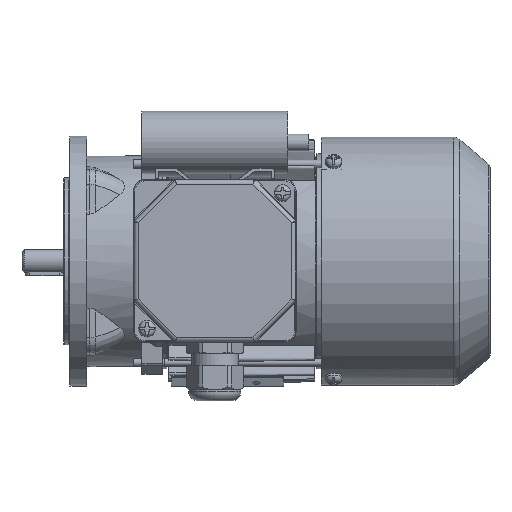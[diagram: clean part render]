
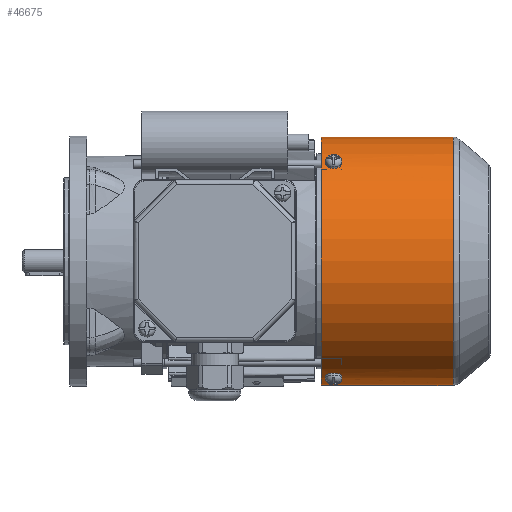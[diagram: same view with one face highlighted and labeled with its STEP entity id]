
A CAD part, top view. The second image highlights one B-rep face of the part: STEP entity #46675.
In plain terms, the highlighted cylindrical face has radius 59.6 mm (diameter 119.2 mm), a full revolution.
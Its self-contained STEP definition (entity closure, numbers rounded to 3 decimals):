
#683=B_SPLINE_CURVE_WITH_KNOTS('',3,(#70611,#70612,#70613,#70614,#70615,
#70616,#70617),.UNSPECIFIED.,.F.,.F.,(4,1,1,1,4),(0.,0.002,
0.004,0.006,0.008),
 .UNSPECIFIED.);
#685=B_SPLINE_CURVE_WITH_KNOTS('',3,(#70635,#70636,#70637,#70638,#70639,
#70640,#70641),.UNSPECIFIED.,.F.,.F.,(4,1,1,1,4),(0.,0.002,
0.004,0.006,0.008),
 .UNSPECIFIED.);
#687=B_SPLINE_CURVE_WITH_KNOTS('',3,(#70663,#70664,#70665,#70666,#70667,
#70668,#70669),.UNSPECIFIED.,.F.,.F.,(4,1,1,1,4),(0.,0.002,
0.004,0.006,0.008),
 .UNSPECIFIED.);
#689=B_SPLINE_CURVE_WITH_KNOTS('',3,(#70687,#70688,#70689,#70690,#70691,
#70692,#70693),.UNSPECIFIED.,.F.,.F.,(4,1,1,1,4),(0.,0.002,
0.004,0.006,0.008),
 .UNSPECIFIED.);
#690=B_SPLINE_CURVE_WITH_KNOTS('',3,(#70698,#70699,#70700,#70701,#70702,
#70703,#70704),.UNSPECIFIED.,.F.,.F.,(4,1,1,1,4),(0.,0.002,
0.004,0.006,0.007),
 .UNSPECIFIED.);
#691=B_SPLINE_CURVE_WITH_KNOTS('',3,(#70707,#70708,#70709,#70710,#70711,
#70712,#70713),.UNSPECIFIED.,.F.,.F.,(4,1,1,1,4),(0.,
0.002,0.004,0.006,0.007),
 .UNSPECIFIED.);
#7368=CYLINDRICAL_SURFACE('',#49747,59.6);
#8085=CIRCLE('',#48484,59.6);
#8692=CIRCLE('',#49731,59.6);
#8694=CIRCLE('',#49736,59.6);
#8695=CIRCLE('',#49738,59.6);
#8697=CIRCLE('',#49742,59.6);
#8699=CIRCLE('',#49746,59.6);
#16193=ORIENTED_EDGE('',*,*,#22500,.T.);
#16194=ORIENTED_EDGE('',*,*,#22497,.T.);
#16195=ORIENTED_EDGE('',*,*,#22505,.T.);
#16196=ORIENTED_EDGE('',*,*,#22503,.T.);
#16197=ORIENTED_EDGE('',*,*,#22519,.F.);
#16198=ORIENTED_EDGE('',*,*,#22520,.F.);
#16199=ORIENTED_EDGE('',*,*,#22513,.T.);
#16200=ORIENTED_EDGE('',*,*,#22510,.T.);
#16201=ORIENTED_EDGE('',*,*,#22518,.T.);
#16202=ORIENTED_EDGE('',*,*,#22516,.T.);
#16203=ORIENTED_EDGE('',*,*,#20734,.F.);
#16204=ORIENTED_EDGE('',*,*,#22506,.T.);
#20734=EDGE_CURVE('',#25046,#25046,#8085,.T.);
#22497=EDGE_CURVE('',#26244,#26247,#683,.T.);
#22500=EDGE_CURVE('',#26248,#26244,#8692,.F.);
#22503=EDGE_CURVE('',#26250,#26248,#685,.T.);
#22505=EDGE_CURVE('',#26247,#26250,#8694,.F.);
#22506=EDGE_CURVE('',#26252,#26252,#8695,.F.);
#22510=EDGE_CURVE('',#26253,#26256,#687,.T.);
#22513=EDGE_CURVE('',#26257,#26253,#8697,.F.);
#22516=EDGE_CURVE('',#26259,#26257,#689,.T.);
#22518=EDGE_CURVE('',#26256,#26259,#8699,.F.);
#22519=EDGE_CURVE('',#26261,#26262,#690,.T.);
#22520=EDGE_CURVE('',#26262,#26261,#691,.T.);
#25046=VERTEX_POINT('',#66043);
#26244=VERTEX_POINT('',#70599);
#26247=VERTEX_POINT('',#70610);
#26248=VERTEX_POINT('',#70620);
#26250=VERTEX_POINT('',#70626);
#26252=VERTEX_POINT('',#70648);
#26253=VERTEX_POINT('',#70651);
#26256=VERTEX_POINT('',#70662);
#26257=VERTEX_POINT('',#70672);
#26259=VERTEX_POINT('',#70678);
#26261=VERTEX_POINT('',#70705);
#26262=VERTEX_POINT('',#70706);
#29123=EDGE_LOOP('',(#16193,#16194,#16195,#16196));
#29124=EDGE_LOOP('',(#16197,#16198));
#29125=EDGE_LOOP('',(#16199,#16200,#16201,#16202));
#29126=EDGE_LOOP('',(#16203));
#29127=EDGE_LOOP('',(#16204));
#31393=FACE_BOUND('',#29123,.T.);
#31394=FACE_BOUND('',#29124,.T.);
#31395=FACE_BOUND('',#29125,.T.);
#31396=FACE_BOUND('',#29126,.T.);
#31397=FACE_BOUND('',#29127,.T.);
#46675=ADVANCED_FACE('',(#31393,#31394,#31395,#31396,#31397),#7368,.T.);
#48484=AXIS2_PLACEMENT_3D('',#66042,#54051,#54052);
#49731=AXIS2_PLACEMENT_3D('',#70623,#57536,#57537);
#49736=AXIS2_PLACEMENT_3D('',#70645,#57547,#57548);
#49738=AXIS2_PLACEMENT_3D('',#70647,#57551,#57552);
#49742=AXIS2_PLACEMENT_3D('',#70675,#57562,#57563);
#49746=AXIS2_PLACEMENT_3D('',#70696,#57571,#57572);
#49747=AXIS2_PLACEMENT_3D('',#70697,#57573,#57574);
#54051=DIRECTION('',(-1.,0.,0.));
#54052=DIRECTION('',(0.,0.,1.));
#57536=DIRECTION('',(-1.,0.,0.));
#57537=DIRECTION('',(0.,0.866,-0.5));
#57547=DIRECTION('',(1.,0.,0.));
#57548=DIRECTION('',(0.,-0.866,0.5));
#57551=DIRECTION('',(1.,0.,0.));
#57552=DIRECTION('',(0.,0.,-1.));
#57562=DIRECTION('',(-1.,0.,0.));
#57563=DIRECTION('',(0.,0.,1.));
#57571=DIRECTION('',(1.,0.,0.));
#57572=DIRECTION('',(0.,0.,-1.));
#57573=DIRECTION('',(-1.,0.,0.));
#57574=DIRECTION('',(0.,0.,1.));
#66042=CARTESIAN_POINT('',(43.5,0.,0.));
#66043=CARTESIAN_POINT('',(43.5,0.,59.6));
#70599=CARTESIAN_POINT('',(52.,46.437,37.36));
#70610=CARTESIAN_POINT('',(47.,46.437,37.36));
#70611=CARTESIAN_POINT('',(52.,46.437,37.36));
#70612=CARTESIAN_POINT('',(52.,46.023,37.874));
#70613=CARTESIAN_POINT('',(51.458,45.191,38.867));
#70614=CARTESIAN_POINT('',(49.502,44.648,39.479));
#70615=CARTESIAN_POINT('',(47.542,45.19,38.869));
#70616=CARTESIAN_POINT('',(47.,46.023,37.874));
#70617=CARTESIAN_POINT('',(47.,46.437,37.36));
#70620=CARTESIAN_POINT('',(52.,47.484,36.02));
#70623=CARTESIAN_POINT('',(52.,0.,0.));
#70626=CARTESIAN_POINT('',(47.,47.484,36.02));
#70635=CARTESIAN_POINT('',(47.,47.484,36.02));
#70636=CARTESIAN_POINT('',(47.,47.883,35.493));
#70637=CARTESIAN_POINT('',(47.542,48.645,34.446));
#70638=CARTESIAN_POINT('',(49.498,49.108,33.771));
#70639=CARTESIAN_POINT('',(51.458,48.646,34.444));
#70640=CARTESIAN_POINT('',(52.,47.883,35.493));
#70641=CARTESIAN_POINT('',(52.,47.484,36.02));
#70645=CARTESIAN_POINT('',(47.,0.,0.));
#70647=CARTESIAN_POINT('',(106.809,0.,0.));
#70648=CARTESIAN_POINT('',(106.809,0.,-59.6));
#70651=CARTESIAN_POINT('',(52.,-55.573,21.536));
#70662=CARTESIAN_POINT('',(47.,-55.573,21.536));
#70663=CARTESIAN_POINT('',(52.,-55.573,21.536));
#70664=CARTESIAN_POINT('',(52.,-55.812,20.92));
#70665=CARTESIAN_POINT('',(51.458,-56.255,19.703));
#70666=CARTESIAN_POINT('',(49.502,-56.514,18.927));
#70667=CARTESIAN_POINT('',(47.542,-56.256,19.701));
#70668=CARTESIAN_POINT('',(47.,-55.812,20.92));
#70669=CARTESIAN_POINT('',(47.,-55.573,21.536));
#70672=CARTESIAN_POINT('',(52.,-54.936,23.112));
#70675=CARTESIAN_POINT('',(52.,0.,0.));
#70678=CARTESIAN_POINT('',(47.,-54.936,23.112));
#70687=CARTESIAN_POINT('',(47.,-54.936,23.112));
#70688=CARTESIAN_POINT('',(47.,-54.68,23.721));
#70689=CARTESIAN_POINT('',(47.542,-54.154,24.905));
#70690=CARTESIAN_POINT('',(49.498,-53.8,25.643));
#70691=CARTESIAN_POINT('',(51.458,-54.153,24.907));
#70692=CARTESIAN_POINT('',(52.,-54.68,23.721));
#70693=CARTESIAN_POINT('',(52.,-54.936,23.112));
#70696=CARTESIAN_POINT('',(47.,0.,0.));
#70697=CARTESIAN_POINT('',(-16.5,0.,0.));
#70698=CARTESIAN_POINT('',(52.,8.295,-59.02));
#70699=CARTESIAN_POINT('',(51.937,7.681,-59.106));
#70700=CARTESIAN_POINT('',(51.356,6.499,-59.249));
#70701=CARTESIAN_POINT('',(49.502,5.777,-59.318));
#70702=CARTESIAN_POINT('',(47.649,6.493,-59.25));
#70703=CARTESIAN_POINT('',(47.063,7.681,-59.106));
#70704=CARTESIAN_POINT('',(47.,8.295,-59.02));
#70705=CARTESIAN_POINT('',(52.,8.295,-59.02));
#70706=CARTESIAN_POINT('',(47.,8.295,-59.02));
#70707=CARTESIAN_POINT('',(47.,8.295,-59.02));
#70708=CARTESIAN_POINT('',(47.063,8.908,-58.934));
#70709=CARTESIAN_POINT('',(47.644,10.084,-58.746));
#70710=CARTESIAN_POINT('',(49.498,10.797,-58.613));
#70711=CARTESIAN_POINT('',(51.351,10.09,-58.745));
#70712=CARTESIAN_POINT('',(51.937,8.908,-58.934));
#70713=CARTESIAN_POINT('',(52.,8.295,-59.02));
